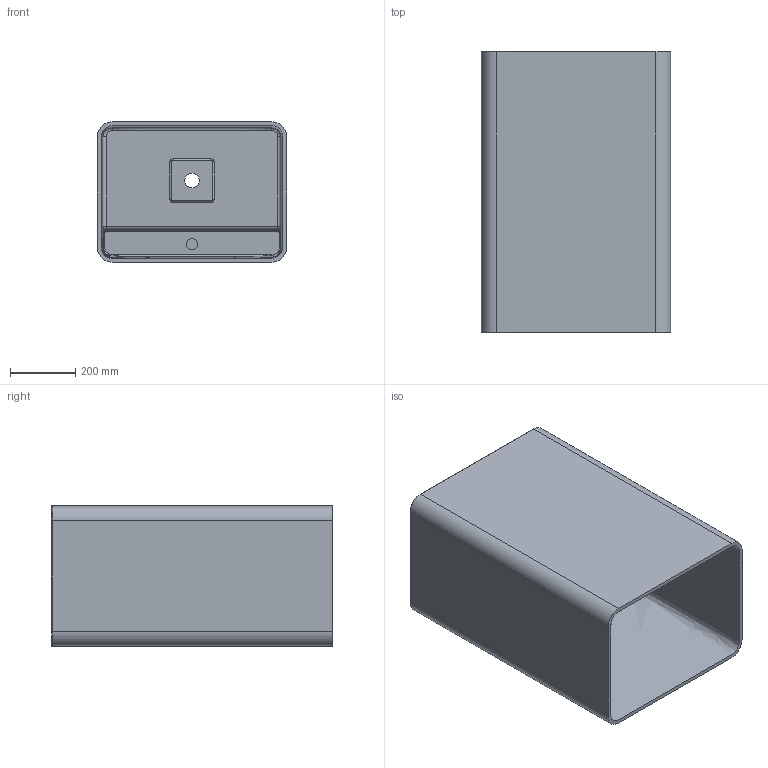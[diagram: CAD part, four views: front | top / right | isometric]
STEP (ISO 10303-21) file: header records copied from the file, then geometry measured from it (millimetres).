
FILE_DESCRIPTION (( 'STEP AP203' ), '1' );
FILE_NAME ('pw04.STEP', '2013-09-24T08:43:15', ( 'Microsoft' ), ( 'Microsoft' ), 'SwSTEP 2.0', 'SolidWorks 2011', '' );
FILE_SCHEMA (( 'CONFIG_CONTROL_DESIGN' ));
Length unit declared in the file: millimetre
Products named in the file (1): pw04
Bounding box: 580 x 860 x 430 mm (x, y, z)
Volume: 25899278 mm3; surface area: 3794223.3 mm2
Topology: 1 solids, 1 shells, 102 faces, 262 edges, 163 vertices
Faces by surface type: bspline 48, cylinder 25, plane 19, torus 8, cone 2
Entity records: 8177 total; most frequent: CARTESIAN_POINT 5953, ORIENTED_EDGE 520, DIRECTION 351, EDGE_CURVE 260, VERTEX_POINT 163, AXIS2_PLACEMENT_3D 143, EDGE_LOOP 109, B_SPLINE_CURVE_WITH_KNOTS 107
